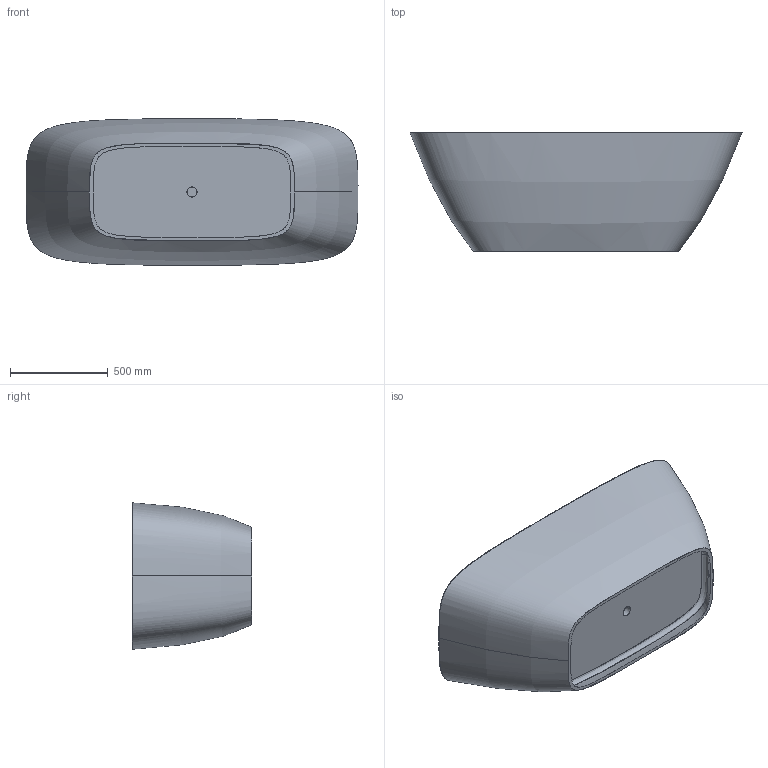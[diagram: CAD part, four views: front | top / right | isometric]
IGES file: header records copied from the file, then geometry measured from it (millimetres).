
Start section: SolidWorks IGES file using analytic representation for surfaces
Global section: file name: D:\Users\M.Szymanski\Desktop\Wanny\LaSenia\03. do przegrania\WP_LaSENIA_75x170.IGS; native system: SolidWorks 2011; preprocessor: SolidWorks 2011; author: M.Szymanski; date: 180522.120237; units: millimetre
Bounding box: 1699.48 x 610 x 749.89 mm (x, y, z)
Surface area: 5805785 mm2 (no closed solid volume)
Topology: 0 solids, 0 shells, 54 faces, 1903 edges, 1902 vertices
Faces by surface type: bspline 42, revolution 12
